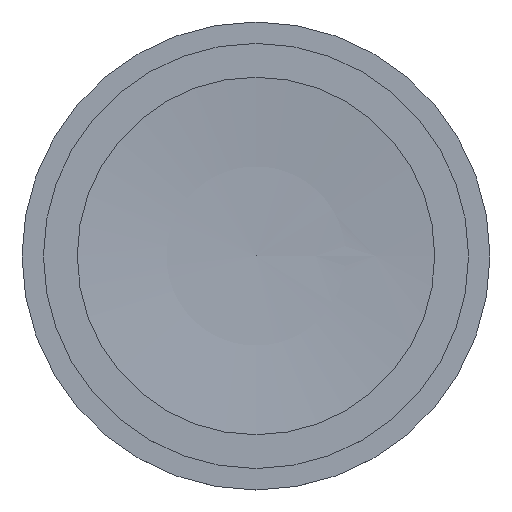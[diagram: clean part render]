
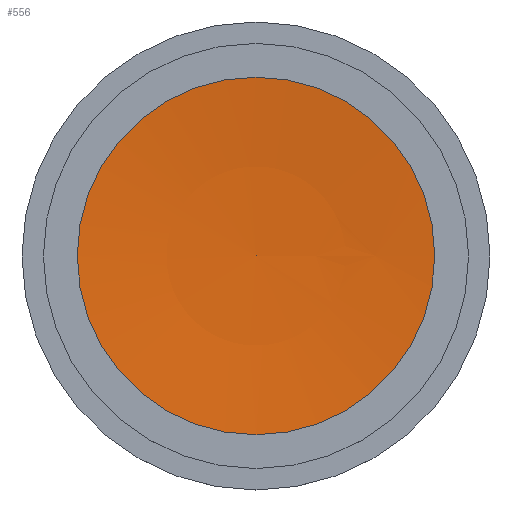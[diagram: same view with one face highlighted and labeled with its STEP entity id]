
A CAD part, top view. The second image highlights one B-rep face of the part: STEP entity #556.
In plain terms, the highlighted spherical face has radius 140 mm.
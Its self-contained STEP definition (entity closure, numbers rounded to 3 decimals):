
#501 = PLANE('',#502);
#502 = AXIS2_PLACEMENT_3D('',#503,#504,#505);
#503 = CARTESIAN_POINT('',(0.,-44.,10.95));
#504 = DIRECTION('',(0.,0.,1.));
#505 = DIRECTION('',(1.,0.,-0.));
#528 = EDGE_CURVE('',#529,#529,#531,.T.);
#529 = VERTEX_POINT('',#530);
#530 = CARTESIAN_POINT('',(12.948,-44.,10.95));
#531 = SURFACE_CURVE('',#532,(#537,#544),.PCURVE_S1.);
#532 = CIRCLE('',#533,12.948);
#533 = AXIS2_PLACEMENT_3D('',#534,#535,#536);
#534 = CARTESIAN_POINT('',(0.,-44.,10.95));
#535 = DIRECTION('',(0.,0.,1.));
#536 = DIRECTION('',(1.,0.,-0.));
#537 = PCURVE('',#501,#538);
#538 = DEFINITIONAL_REPRESENTATION('',(#539),#543);
#539 = CIRCLE('',#540,12.948);
#540 = AXIS2_PLACEMENT_2D('',#541,#542);
#541 = CARTESIAN_POINT('',(0.,0.));
#542 = DIRECTION('',(1.,0.));
#543 = ( GEOMETRIC_REPRESENTATION_CONTEXT(2) 
PARAMETRIC_REPRESENTATION_CONTEXT() REPRESENTATION_CONTEXT('2D SPACE',''
  ) );
#544 = PCURVE('',#545,#550);
#545 = SPHERICAL_SURFACE('',#546,140.);
#546 = AXIS2_PLACEMENT_3D('',#547,#548,#549);
#547 = CARTESIAN_POINT('',(0.,-44.,150.35));
#548 = DIRECTION('',(0.,0.,1.));
#549 = DIRECTION('',(1.,0.,0.));
#550 = DEFINITIONAL_REPRESENTATION('',(#551),#555);
#551 = LINE('',#552,#553);
#552 = CARTESIAN_POINT('',(0.,-1.478));
#553 = VECTOR('',#554,1.);
#554 = DIRECTION('',(1.,0.));
#555 = ( GEOMETRIC_REPRESENTATION_CONTEXT(2) 
PARAMETRIC_REPRESENTATION_CONTEXT() REPRESENTATION_CONTEXT('2D SPACE',''
  ) );
#556 = ADVANCED_FACE('',(#557),#545,.F.);
#557 = FACE_BOUND('',#558,.F.);
#558 = EDGE_LOOP('',(#559,#560,#584));
#559 = ORIENTED_EDGE('',*,*,#528,.F.);
#560 = ORIENTED_EDGE('',*,*,#561,.F.);
#561 = EDGE_CURVE('',#562,#529,#564,.T.);
#562 = VERTEX_POINT('',#563);
#563 = CARTESIAN_POINT('',(0.,-44.,10.35));
#564 = SEAM_CURVE('',#565,(#570,#577),.PCURVE_S1.);
#565 = CIRCLE('',#566,140.);
#566 = AXIS2_PLACEMENT_3D('',#567,#568,#569);
#567 = CARTESIAN_POINT('',(0.,-44.,150.35));
#568 = DIRECTION('',(0.,-1.,0.));
#569 = DIRECTION('',(1.,0.,0.));
#570 = PCURVE('',#545,#571);
#571 = DEFINITIONAL_REPRESENTATION('',(#572),#576);
#572 = LINE('',#573,#574);
#573 = CARTESIAN_POINT('',(6.283,-6.283));
#574 = VECTOR('',#575,1.);
#575 = DIRECTION('',(0.,1.));
#576 = ( GEOMETRIC_REPRESENTATION_CONTEXT(2) 
PARAMETRIC_REPRESENTATION_CONTEXT() REPRESENTATION_CONTEXT('2D SPACE',''
  ) );
#577 = PCURVE('',#545,#578);
#578 = DEFINITIONAL_REPRESENTATION('',(#579),#583);
#579 = LINE('',#580,#581);
#580 = CARTESIAN_POINT('',(0.,-6.283));
#581 = VECTOR('',#582,1.);
#582 = DIRECTION('',(0.,1.));
#583 = ( GEOMETRIC_REPRESENTATION_CONTEXT(2) 
PARAMETRIC_REPRESENTATION_CONTEXT() REPRESENTATION_CONTEXT('2D SPACE',''
  ) );
#584 = ORIENTED_EDGE('',*,*,#561,.T.);
